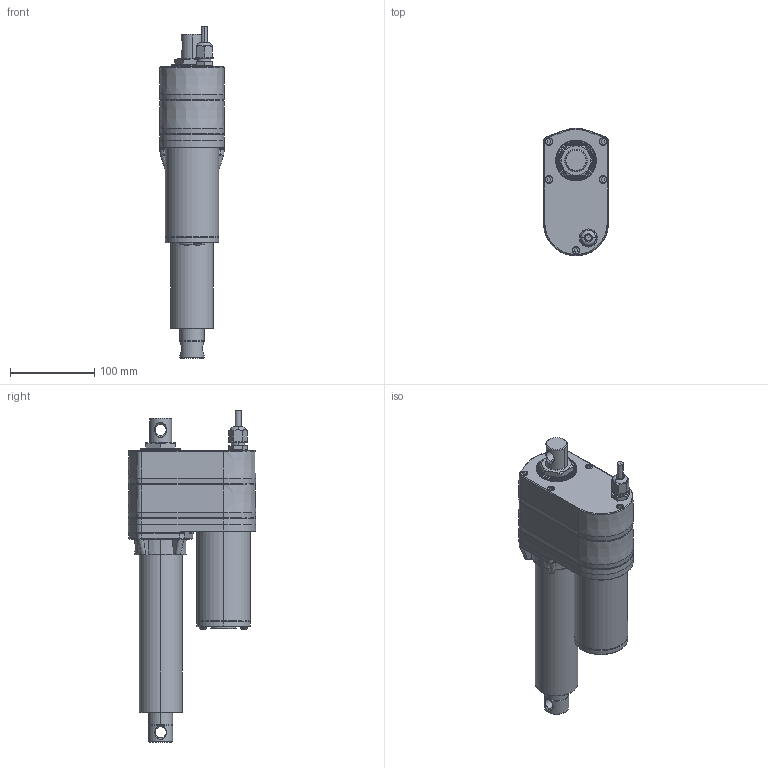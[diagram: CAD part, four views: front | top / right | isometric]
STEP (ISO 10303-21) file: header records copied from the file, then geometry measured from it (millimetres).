
FILE_DESCRIPTION (( 'STEP AP203' ), '1' );
FILE_NAME ('ID10BT-24-4-A-102-LT-POT.STEP', '2021-11-12T02:41:55', ( '' ), ( '' ), 'SwSTEP 2.0', 'SolidWorks 2020', '' );
FILE_SCHEMA (( 'CONFIG_CONTROL_DESIGN' ));
Length unit declared in the file: millimetre
Products named in the file (3): ID10II_2; ID10BT-24-4-A-102-LT-POT; ID10II_1
Assembly tree (2 placements, depth 2):
  ID10BT-24-4-A-102-LT-POT
    ID10II_1
    ID10II_2
Bounding box: 77.15 x 151.65 x 394.15 mm (x, y, z)
Volume: 1911161 mm3; surface area: 162070.2 mm2
Topology: 7 solids, 7 shells, 936 faces, 2405 edges, 1521 vertices
Faces by surface type: plane 555, cylinder 189, torus 79, cone 57, bspline 54, sphere 2
Entity records: 31392 total; most frequent: CARTESIAN_POINT 10127, ORIENTED_EDGE 4810, DIRECTION 4051, EDGE_CURVE 2405, VERTEX_POINT 1521, AXIS2_PLACEMENT_3D 1505, VECTOR 1041, LINE 1041
